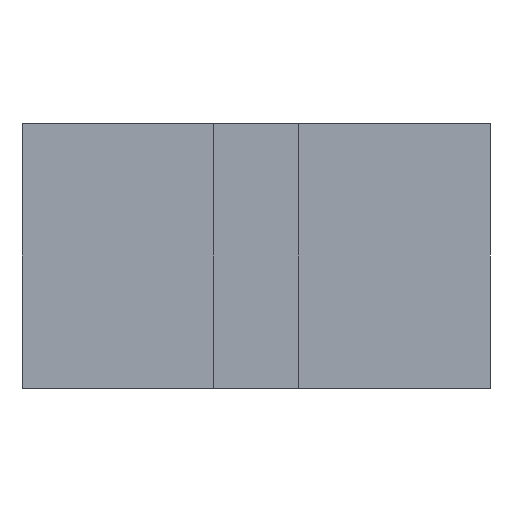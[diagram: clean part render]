
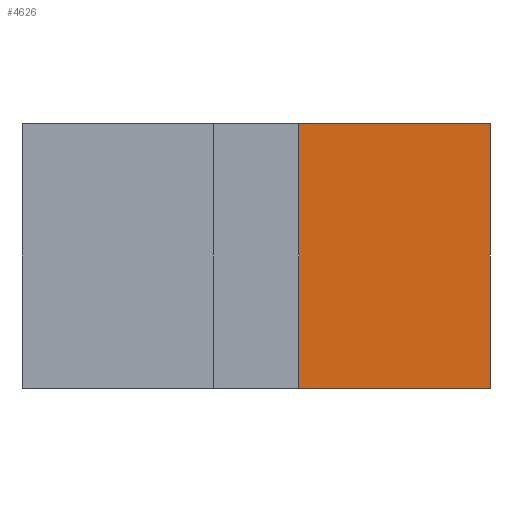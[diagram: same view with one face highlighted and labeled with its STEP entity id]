
A CAD part, left-side view. The second image highlights one B-rep face of the part: STEP entity #4626.
In plain terms, the highlighted planar face has unit normal (-1, 0, 0).
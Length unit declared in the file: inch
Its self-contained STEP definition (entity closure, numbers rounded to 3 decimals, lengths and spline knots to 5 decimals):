
#4570=CARTESIAN_POINT('',(-2.65748,-0.88583,1.0));
#4571=VERTEX_POINT('',#4570);
#4578=CARTESIAN_POINT('',(-2.65748,-0.88583,0.0));
#4579=VERTEX_POINT('',#4578);
#4580=CARTESIAN_POINT('',(-2.65748,-0.88583,0.0));
#4581=DIRECTION('',(0.0,0.0,1.0));
#4582=VECTOR('',#4581,1.0);
#4583=LINE('',#4580,#4582);
#4584=EDGE_CURVE('',#4579,#4571,#4583,.T.);
#4596=CARTESIAN_POINT('',(-2.65748,-0.88583,0.0));
#4597=DIRECTION('',(-1.,0.,0.0));
#4598=DIRECTION('',(0.0,0.0,1.0));
#4599=AXIS2_PLACEMENT_3D('',#4596,#4597,#4598);
#4600=PLANE('',#4599);
#4601=CARTESIAN_POINT('',(-2.65748,-0.16142,1.0));
#4602=VERTEX_POINT('',#4601);
#4603=CARTESIAN_POINT('',(-2.65748,-0.88583,1.0));
#4604=DIRECTION('',(0.,1.,0.0));
#4605=VECTOR('',#4604,0.72441);
#4606=LINE('',#4603,#4605);
#4607=EDGE_CURVE('',#4571,#4602,#4606,.T.);
#4608=ORIENTED_EDGE('',*,*,#4607,.T.);
#4609=CARTESIAN_POINT('',(-2.65748,-0.16142,0.0));
#4610=VERTEX_POINT('',#4609);
#4611=CARTESIAN_POINT('',(-2.65748,-0.16142,0.0));
#4612=DIRECTION('',(0.0,0.0,1.0));
#4613=VECTOR('',#4612,1.0);
#4614=LINE('',#4611,#4613);
#4615=EDGE_CURVE('',#4610,#4602,#4614,.T.);
#4616=ORIENTED_EDGE('',*,*,#4615,.F.);
#4617=CARTESIAN_POINT('',(-2.65748,-0.16142,0.0));
#4618=DIRECTION('',(0.,-1.,0.0));
#4619=VECTOR('',#4618,0.72441);
#4620=LINE('',#4617,#4619);
#4621=EDGE_CURVE('',#4610,#4579,#4620,.T.);
#4622=ORIENTED_EDGE('',*,*,#4621,.T.);
#4623=ORIENTED_EDGE('',*,*,#4584,.T.);
#4624=EDGE_LOOP('',(#4608,#4616,#4622,#4623));
#4625=FACE_OUTER_BOUND('',#4624,.T.);
#4626=ADVANCED_FACE('',(#4625),#4600,.T.);
